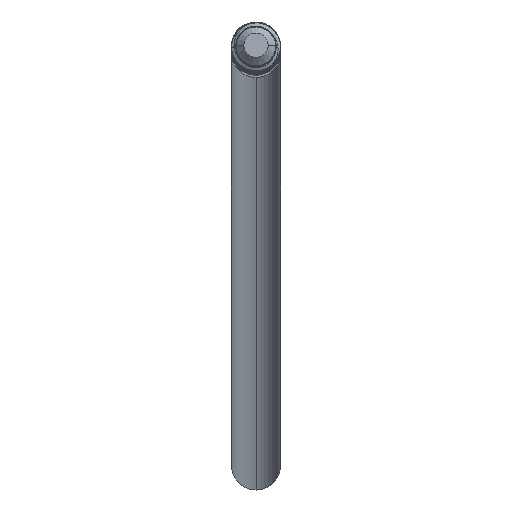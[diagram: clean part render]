
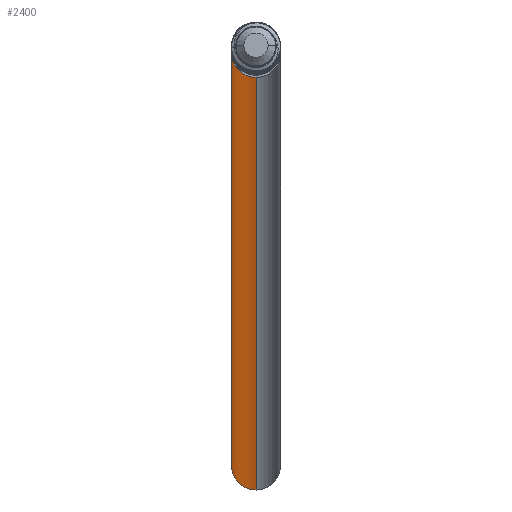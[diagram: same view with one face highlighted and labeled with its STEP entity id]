
A CAD part, left-side view. The second image highlights one B-rep face of the part: STEP entity #2400.
In plain terms, the highlighted cylindrical face has radius 3 mm (diameter 6 mm), a partial arc.
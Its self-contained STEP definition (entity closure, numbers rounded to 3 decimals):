
#1=CARTESIAN_POINT('',(628.559,0.,138.977));
#2=DIRECTION('',(0.997,0.,-0.077));
#3=DIRECTION('',(-0.077,0.,-0.997));
#4=AXIS2_PLACEMENT_3D('',#1,#2,#3);
#472=CARTESIAN_POINT('',(-20.53,0.,189.308));
#473=DIRECTION('',(-0.997,0.,0.077));
#474=DIRECTION('',(0.077,0.,0.997));
#475=AXIS2_PLACEMENT_3D('',#472,#473,#474);
#477=DIRECTION('',(0.997,0.,-0.077));
#478=VECTOR('',#477,651.037);
#479=CARTESIAN_POINT('',(-20.762,0.,
186.317));
#480=LINE('',#479,#478);
#2100=DIRECTION('',(0.997,0.,-0.077));
#2101=VECTOR('',#2100,651.037);
#2102=CARTESIAN_POINT('',(-20.298,0.,
192.299));
#2103=LINE('',#2102,#2101);
#2168=CARTESIAN_POINT('',(628.327,0.,135.986));
#2169=CARTESIAN_POINT('',(628.791,0.,141.968));
#2170=VERTEX_POINT('',#2168);
#2171=VERTEX_POINT('',#2169);
#2243=CARTESIAN_POINT('',(-20.298,0.,
192.299));
#2244=CARTESIAN_POINT('',(-20.762,0.,
186.317));
#2245=VERTEX_POINT('',#2243);
#2246=VERTEX_POINT('',#2244);
#2386=CARTESIAN_POINT('',(-20.53,0.,189.308));
#2387=DIRECTION('',(0.997,0.,-0.077));
#2388=DIRECTION('',(-0.077,0.,-0.997));
#2389=AXIS2_PLACEMENT_3D('',#2386,#2387,#2388);
#2390=CYLINDRICAL_SURFACE('',#2389,3.);
#2392=ORIENTED_EDGE('',*,*,#2391,.T.);
#2394=ORIENTED_EDGE('',*,*,#2393,.T.);
#2395=ORIENTED_EDGE('',*,*,#2261,.T.);
#2397=ORIENTED_EDGE('',*,*,#2396,.F.);
#2398=EDGE_LOOP('',(#2392,#2394,#2395,#2397));
#2399=FACE_OUTER_BOUND('',#2398,.F.);
#2400=ADVANCED_FACE('',(#2399),#2390,.T.);
#5=CIRCLE('',#4,3.);
#476=CIRCLE('',#475,3.);
#2261=EDGE_CURVE('',#2170,#2171,#5,.T.);
#2391=EDGE_CURVE('',#2245,#2246,#476,.T.);
#2393=EDGE_CURVE('',#2246,#2170,#480,.T.);
#2396=EDGE_CURVE('',#2245,#2171,#2103,.T.);
